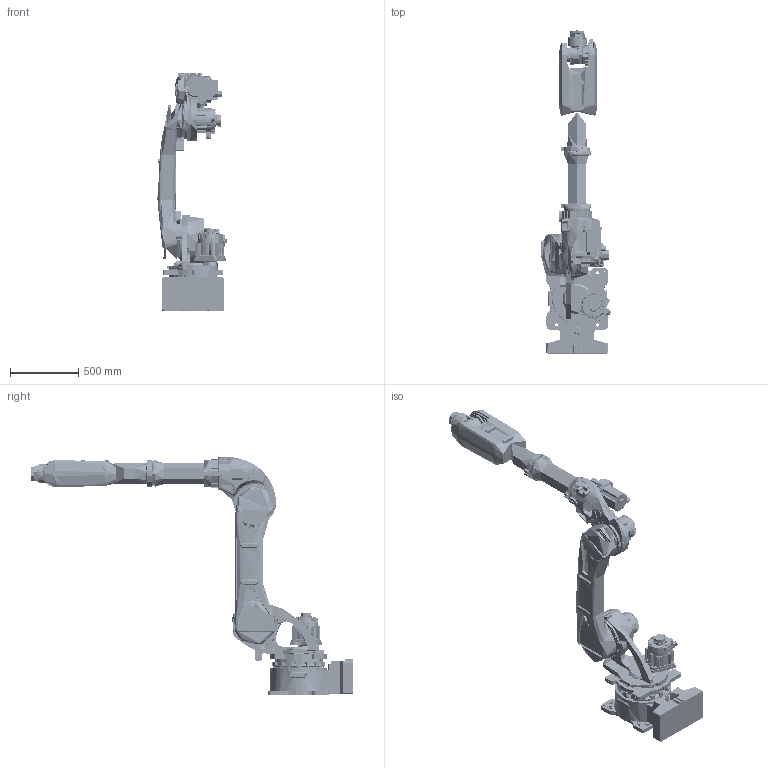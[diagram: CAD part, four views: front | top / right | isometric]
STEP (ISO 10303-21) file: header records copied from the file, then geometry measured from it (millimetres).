
FILE_DESCRIPTION((''),'2;1');
FILE_NAME('ASM_MR80-2250_X2_591653D16A2157_ASM','2023-04-14T19:06:02',('27030'),(''),'CREO PARAMETRIC BY PTC INC, 2019010','CREO PARAMETRIC BY PTC INC, 2019010','');
FILE_SCHEMA(('AUTOMOTIVE_DESIGN { 1 0 10303 214 1 1 1 1 }'));
Products named in the file (10): _X2_5E955EA7_X0_; 1_X2_8F748F6C5EA7_X0_; 2_X2_8F74592781C2_X0_; 3_X2_8F747535673A5EA7_X0_; 4_X2_8F74624B81554F53_X0_; 5_X2_8F74624B8155_X0_; 6_X2_8F748F9351FA6CD55170_X0_; J4-JSJ; MR60-JIACHANGGAN; ASM_MR80-2250_X2_591653D16A2157_ASM
Assembly tree (9 placements, depth 2):
  ASM_MR80-2250_X2_591653D16A2157_ASM
    _X2_5E955EA7_X0_
    1_X2_8F748F6C5EA7_X0_
    2_X2_8F74592781C2_X0_
    3_X2_8F747535673A5EA7_X0_
    4_X2_8F74624B81554F53_X0_
    5_X2_8F74624B8155_X0_
    6_X2_8F748F9351FA6CD55170_X0_
    J4-JSJ
    MR60-JIACHANGGAN
Bounding box: 514.13 x 2363.25 x 1750 mm (x, y, z)
Topology: 89 solids, 195 shells, 15978 faces, 48172 edges, 32921 vertices
Faces by surface type: cylinder 5226, plane 4027, bspline 3245, cone 1970, torus 930, extrusion 425, sphere 153, revolution 2
Entity records: 765480 total; most frequent: CARTESIAN_POINT 249162, ORIENTED_EDGE 95326, DIRECTION 69948, EDGE_CURVE 47679, VERTEX_POINT 32904, AXIS2_PLACEMENT_3D 27549, B_SPLINE_CURVE_WITH_KNOTS 18458, PRESENTATION_STYLE_ASSIGNMENT 17817
